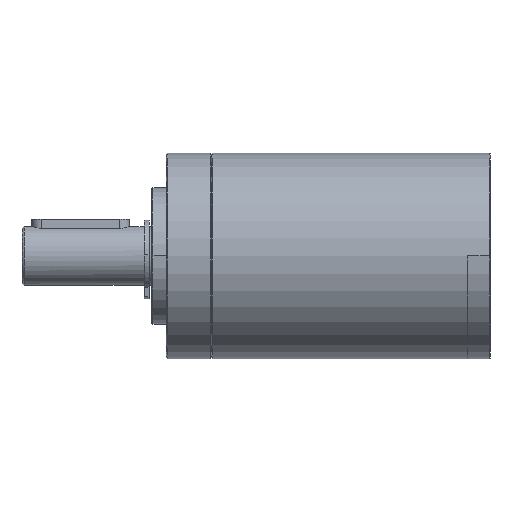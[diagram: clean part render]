
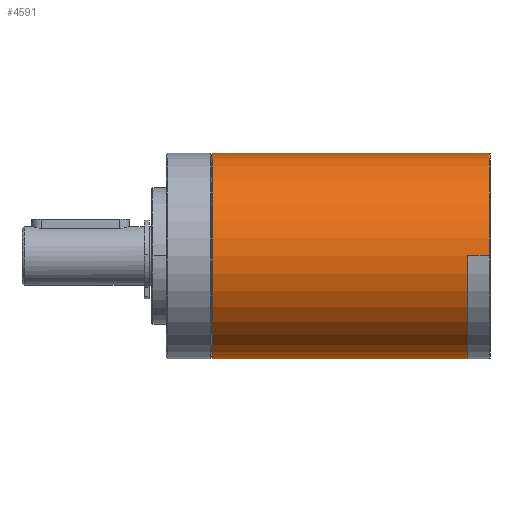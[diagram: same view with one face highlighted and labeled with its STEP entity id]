
A CAD part, top view. The second image highlights one B-rep face of the part: STEP entity #4591.
In plain terms, the highlighted cylindrical face has radius 21 mm (diameter 42 mm), a partial arc.
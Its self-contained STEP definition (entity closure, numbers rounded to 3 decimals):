
#9 = AXIS2_PLACEMENT_3D ( 'NONE', #1800, #3394, #1026 ) ;
#101 = CARTESIAN_POINT ( 'NONE',  ( 9.4, 21., 0. ) ) ;
#208 = CARTESIAN_POINT ( 'NONE',  ( 9.2, 0., 0. ) ) ;
#316 = VECTOR ( 'NONE', #394, 1000. ) ;
#394 = DIRECTION ( 'NONE',  ( -1., 0., 0. ) ) ;
#475 = EDGE_CURVE ( 'NONE', #4216, #2876, #4330, .T. ) ;
#499 = CIRCLE ( 'NONE', #9, 21. ) ;
#1018 = LINE ( 'NONE', #2599, #3198 ) ;
#1026 = DIRECTION ( 'NONE',  ( 0., 0., 1. ) ) ;
#1040 = VERTEX_POINT ( 'NONE', #3769 ) ;
#1042 = CIRCLE ( 'NONE', #1711, 21. ) ;
#1091 = ORIENTED_EDGE ( 'NONE', *, *, #2427, .T. ) ;
#1212 = ORIENTED_EDGE ( 'NONE', *, *, #3061, .F. ) ;
#1383 = AXIS2_PLACEMENT_3D ( 'NONE', #4497, #4154, #2174 ) ;
#1459 = EDGE_CURVE ( 'NONE', #3380, #2126, #3155, .T. ) ;
#1518 = CARTESIAN_POINT ( 'NONE',  ( 66.133, 0., 21. ) ) ;
#1579 = VERTEX_POINT ( 'NONE', #1604 ) ;
#1604 = CARTESIAN_POINT ( 'NONE',  ( 61.65, 0., -21. ) ) ;
#1692 = EDGE_CURVE ( 'NONE', #3380, #1040, #499, .T. ) ;
#1696 = CARTESIAN_POINT ( 'NONE',  ( 9.4, 0., 0. ) ) ;
#1711 = AXIS2_PLACEMENT_3D ( 'NONE', #4315, #2239, #4197 ) ;
#1763 = ORIENTED_EDGE ( 'NONE', *, *, #4559, .F. ) ;
#1800 = CARTESIAN_POINT ( 'NONE',  ( 66.133, 0., 0. ) ) ;
#1974 = CARTESIAN_POINT ( 'NONE',  ( 61.65, 0., 21. ) ) ;
#2055 = CARTESIAN_POINT ( 'NONE',  ( 9.4, 21., 0. ) ) ;
#2106 = CYLINDRICAL_SURFACE ( 'NONE', #4869, 21. ) ;
#2126 = VERTEX_POINT ( 'NONE', #1974 ) ;
#2174 = DIRECTION ( 'NONE',  ( 0., 1., 0. ) ) ;
#2178 = VERTEX_POINT ( 'NONE', #2474 ) ;
#2202 = EDGE_LOOP ( 'NONE', ( #1091, #1212, #2282, #1763, #4239, #4404, #3236, #3459 ) ) ;
#2239 = DIRECTION ( 'NONE',  ( -1., 0., 0. ) ) ;
#2282 = ORIENTED_EDGE ( 'NONE', *, *, #475, .F. ) ;
#2318 = LINE ( 'NONE', #3868, #316 ) ;
#2427 = EDGE_CURVE ( 'NONE', #1040, #1579, #2318, .T. ) ;
#2474 = CARTESIAN_POINT ( 'NONE',  ( 9.4, -21., 0. ) ) ;
#2559 = VECTOR ( 'NONE', #4667, 1000. ) ;
#2599 = CARTESIAN_POINT ( 'NONE',  ( 9.4, -21., 0. ) ) ;
#2643 = EDGE_CURVE ( 'NONE', #2178, #4850, #1018, .T. ) ;
#2876 = VERTEX_POINT ( 'NONE', #4718 ) ;
#3061 = EDGE_CURVE ( 'NONE', #2876, #1579, #3755, .T. ) ;
#3104 = CARTESIAN_POINT ( 'NONE',  ( 66.133, 0., 21. ) ) ;
#3155 = LINE ( 'NONE', #3104, #2559 ) ;
#3198 = VECTOR ( 'NONE', #4140, 1000. ) ;
#3236 = ORIENTED_EDGE ( 'NONE', *, *, #1459, .F. ) ;
#3262 = FACE_OUTER_BOUND ( 'NONE', #2202, .T. ) ;
#3267 = DIRECTION ( 'NONE',  ( 1., 0., 0. ) ) ;
#3311 = DIRECTION ( 'NONE',  ( 1., 0., 0. ) ) ;
#3331 = DIRECTION ( 'NONE',  ( -1., 0., 0. ) ) ;
#3380 = VERTEX_POINT ( 'NONE', #1518 ) ;
#3394 = DIRECTION ( 'NONE',  ( -1., 0., 0. ) ) ;
#3459 = ORIENTED_EDGE ( 'NONE', *, *, #1692, .T. ) ;
#3460 = AXIS2_PLACEMENT_3D ( 'NONE', #1696, #3331, #4138 ) ;
#3620 = CIRCLE ( 'NONE', #3460, 21. ) ;
#3755 = CIRCLE ( 'NONE', #1383, 21. ) ;
#3769 = CARTESIAN_POINT ( 'NONE',  ( 66.133, 0., -21. ) ) ;
#3784 = EDGE_CURVE ( 'NONE', #4850, #2126, #1042, .T. ) ;
#3868 = CARTESIAN_POINT ( 'NONE',  ( 66.133, 0., -21. ) ) ;
#4071 = VECTOR ( 'NONE', #3267, 1000. ) ;
#4138 = DIRECTION ( 'NONE',  ( 0., -1., 0. ) ) ;
#4140 = DIRECTION ( 'NONE',  ( 1., 0., 0. ) ) ;
#4154 = DIRECTION ( 'NONE',  ( -1., 0., 0. ) ) ;
#4197 = DIRECTION ( 'NONE',  ( 0., -1., 0. ) ) ;
#4216 = VERTEX_POINT ( 'NONE', #101 ) ;
#4239 = ORIENTED_EDGE ( 'NONE', *, *, #2643, .T. ) ;
#4315 = CARTESIAN_POINT ( 'NONE',  ( 61.65, 0., 0. ) ) ;
#4330 = LINE ( 'NONE', #2055, #4071 ) ;
#4404 = ORIENTED_EDGE ( 'NONE', *, *, #3784, .T. ) ;
#4497 = CARTESIAN_POINT ( 'NONE',  ( 61.65, 0., 0. ) ) ;
#4534 = DIRECTION ( 'NONE',  ( 0., -1., 0. ) ) ;
#4559 = EDGE_CURVE ( 'NONE', #2178, #4216, #3620, .T. ) ;
#4591 = ADVANCED_FACE ( 'NONE', ( #3262 ), #2106, .T. ) ;
#4667 = DIRECTION ( 'NONE',  ( -1., 0., 0. ) ) ;
#4718 = CARTESIAN_POINT ( 'NONE',  ( 61.65, 21., 0. ) ) ;
#4754 = CARTESIAN_POINT ( 'NONE',  ( 61.65, -21., 0. ) ) ;
#4850 = VERTEX_POINT ( 'NONE', #4754 ) ;
#4869 = AXIS2_PLACEMENT_3D ( 'NONE', #208, #3311, #4534 ) ;
